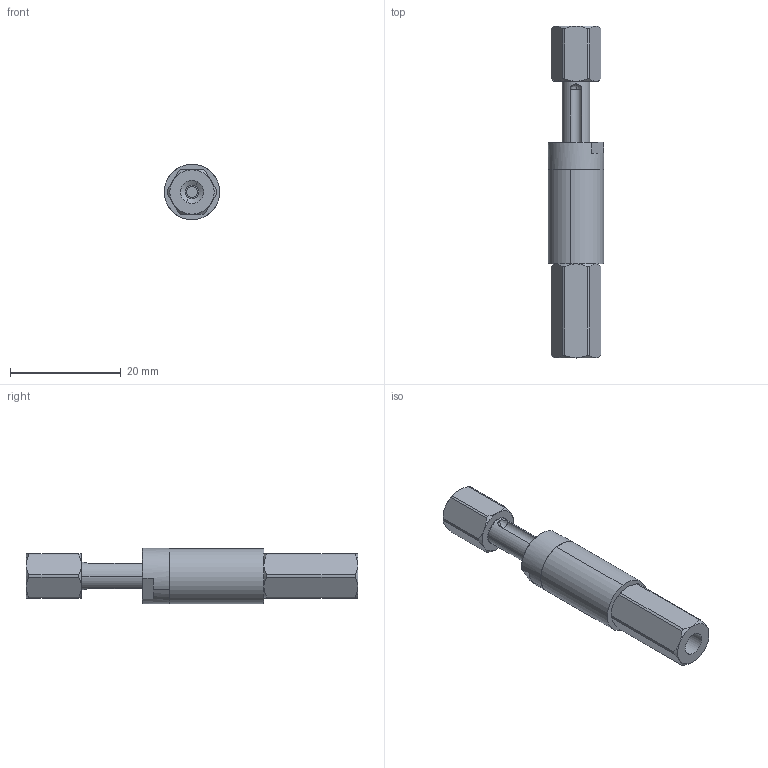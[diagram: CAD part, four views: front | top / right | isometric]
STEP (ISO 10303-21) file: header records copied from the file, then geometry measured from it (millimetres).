
FILE_DESCRIPTION (( 'STEP AP214' ), '1' );
FILE_NAME ('VFN1011-M5.STEP', '2019-11-15T05:22:10', ( '微软用户' ), ( '微软中国' ), 'SwSTEP 2.0', 'SolidWorks 2016', '' );
FILE_SCHEMA (( 'AUTOMOTIVE_DESIGN' ));
Length unit declared in the file: millimetre
Products named in the file (1): VFN1011-M5
Bounding box: 10 x 60 x 10 mm (x, y, z)
Volume: 3266.5 mm3; surface area: 3439.5 mm2
Topology: 5 solids, 5 shells, 214 faces, 518 edges, 306 vertices
Faces by surface type: cone 95, cylinder 75, plane 30, bspline 14
Entity records: 9402 total; most frequent: CARTESIAN_POINT 2123, DIRECTION 1040, ORIENTED_EDGE 1012, EDGE_CURVE 506, AXIS2_PLACEMENT_3D 441, VERTEX_POINT 306, CIRCLE 240, EDGE_LOOP 228
